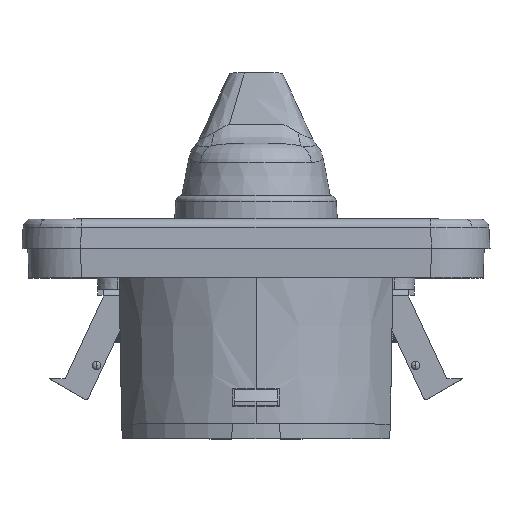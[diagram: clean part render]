
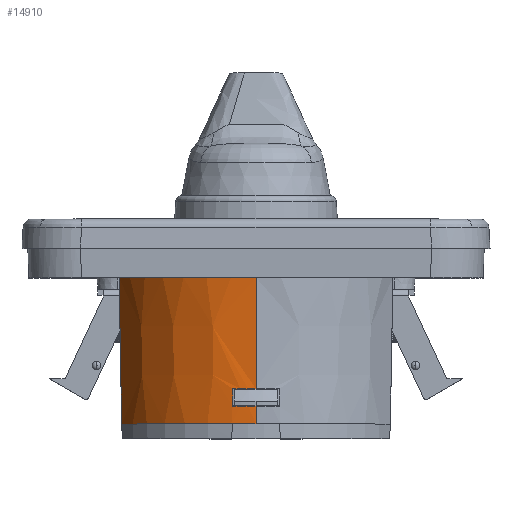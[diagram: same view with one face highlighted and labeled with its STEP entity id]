
A CAD part, top view. The second image highlights one B-rep face of the part: STEP entity #14910.
In plain terms, the highlighted conical face has half-angle 1 degrees and reference radius 25 mm.
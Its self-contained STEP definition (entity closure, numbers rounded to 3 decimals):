
#224 = CARTESIAN_POINT ( 'NONE',  ( 0., 0., 0. ) ) ;
#393 = CARTESIAN_POINT ( 'NONE',  ( -4., -21.508, 24.298 ) ) ;
#461 = VERTEX_POINT ( 'NONE', #29344 ) ;
#1006 = VERTEX_POINT ( 'NONE', #10917 ) ;
#1124 = DIRECTION ( 'NONE',  ( 0., 1., 0.017 ) ) ;
#1161 = DIRECTION ( 'NONE',  ( 0., -1., 0. ) ) ;
#1917 = CARTESIAN_POINT ( 'NONE',  ( -22.964, -25., 8.72 ) ) ;
#2154 = EDGE_LOOP ( 'NONE', ( #13075, #12576, #25080, #28340, #25958, #19184, #9758, #17780 ) ) ;
#2464 = CONICAL_SURFACE ( 'NONE', #8835, 25., 0.017 ) ;
#2646 = CARTESIAN_POINT ( 'NONE',  ( 0., 0., 25. ) ) ;
#2876 = VERTEX_POINT ( 'NONE', #3796 ) ;
#3690 = CARTESIAN_POINT ( 'NONE',  ( 0., 0., 25. ) ) ;
#3796 = CARTESIAN_POINT ( 'NONE',  ( 0., -25., 24.564 ) ) ;
#4381 = FACE_OUTER_BOUND ( 'NONE', #2154, .T. ) ;
#4857 = CARTESIAN_POINT ( 'NONE',  ( -4., -20.016, 24.324 ) ) ;
#6053 = DIRECTION ( 'NONE',  ( 0., 0., -1. ) ) ;
#6166 = DIRECTION ( 'NONE',  ( 0., 1., 0. ) ) ;
#6583 = AXIS2_PLACEMENT_3D ( 'NONE', #8456, #6166, #22383 ) ;
#6996 = EDGE_CURVE ( 'NONE', #26652, #10055, #22376, .T. ) ;
#6997 = CARTESIAN_POINT ( 'NONE',  ( -4., -19.508, 24.333 ) ) ;
#8047 = VERTEX_POINT ( 'NONE', #24239 ) ;
#8456 = CARTESIAN_POINT ( 'NONE',  ( 0., -19., 0. ) ) ;
#8835 = AXIS2_PLACEMENT_3D ( 'NONE', #224, #16107, #9606 ) ;
#9519 = CARTESIAN_POINT ( 'NONE',  ( -23.4, 0., 8.8 ) ) ;
#9606 = DIRECTION ( 'NONE',  ( 0., 0., 1. ) ) ;
#9758 = ORIENTED_EDGE ( 'NONE', *, *, #30253, .T. ) ;
#10017 = CIRCLE ( 'NONE', #25338, 24.564 ) ;
#10055 = VERTEX_POINT ( 'NONE', #2646 ) ;
#10716 = CARTESIAN_POINT ( 'NONE',  ( 0., 0., 0. ) ) ;
#10917 = CARTESIAN_POINT ( 'NONE',  ( -4., -22., 24.289 ) ) ;
#11203 = CIRCLE ( 'NONE', #14660, 24.616 ) ;
#12009 = CIRCLE ( 'NONE', #6583, 24.668 ) ;
#12576 = ORIENTED_EDGE ( 'NONE', *, *, #13063, .T. ) ;
#12825 = DIRECTION ( 'NONE',  ( 0., -1., 0. ) ) ;
#12835 = CARTESIAN_POINT ( 'NONE',  ( 0., 0., 25. ) ) ;
#13063 = EDGE_CURVE ( 'NONE', #2876, #8047, #24898, .T. ) ;
#13075 = ORIENTED_EDGE ( 'NONE', *, *, #24040, .F. ) ;
#13094 = VECTOR ( 'NONE', #1124, 1000. ) ;
#13413 = EDGE_CURVE ( 'NONE', #29924, #26652, #12009, .T. ) ;
#13727 = VERTEX_POINT ( 'NONE', #9519 ) ;
#14447 = CIRCLE ( 'NONE', #26279, 25. ) ;
#14660 = AXIS2_PLACEMENT_3D ( 'NONE', #24732, #12825, #19948 ) ;
#14910 = ADVANCED_FACE ( 'NONE', ( #4381 ), #2464, .T. ) ;
#16107 = DIRECTION ( 'NONE',  ( 0., 1., 0. ) ) ;
#16120 = CARTESIAN_POINT ( 'NONE',  ( -23.109, -16.667, 8.747 ) ) ;
#17145 = CARTESIAN_POINT ( 'NONE',  ( 0., -19., 24.668 ) ) ;
#17346 = DIRECTION ( 'NONE',  ( 0., 0., 1. ) ) ;
#17780 = ORIENTED_EDGE ( 'NONE', *, *, #25349, .T. ) ;
#18123 = EDGE_CURVE ( 'NONE', #1006, #29924, #29222, .T. ) ;
#19184 = ORIENTED_EDGE ( 'NONE', *, *, #6996, .T. ) ;
#19653 = DIRECTION ( 'NONE',  ( 0., -1., 0. ) ) ;
#19948 = DIRECTION ( 'NONE',  ( 0., 0., -1. ) ) ;
#21521 = CARTESIAN_POINT ( 'NONE',  ( -4., -22., 24.289 ) ) ;
#21782 = CARTESIAN_POINT ( 'NONE',  ( -23.255, -8.333, 8.774 ) ) ;
#22376 = LINE ( 'NONE', #3690, #25885 ) ;
#22383 = DIRECTION ( 'NONE',  ( 0., 0., 1. ) ) ;
#22644 = CARTESIAN_POINT ( 'NONE',  ( -4., -19., 24.342 ) ) ;
#23016 = B_SPLINE_CURVE_WITH_KNOTS ( 'NONE', 3,
 ( #25840, #21782, #16120, #1917 ),
 .UNSPECIFIED., .F., .F.,
 ( 4, 4 ),
 ( 0., 0.025 ),
 .UNSPECIFIED. ) ;
#24000 = CARTESIAN_POINT ( 'NONE',  ( -4., -21.016, 24.306 ) ) ;
#24040 = EDGE_CURVE ( 'NONE', #2876, #461, #10017, .T. ) ;
#24239 = CARTESIAN_POINT ( 'NONE',  ( 0., -22., 24.616 ) ) ;
#24452 = CARTESIAN_POINT ( 'NONE',  ( 0., -25., 0. ) ) ;
#24732 = CARTESIAN_POINT ( 'NONE',  ( 0., -22., 0. ) ) ;
#24898 = LINE ( 'NONE', #12835, #13094 ) ;
#25080 = ORIENTED_EDGE ( 'NONE', *, *, #29017, .T. ) ;
#25338 = AXIS2_PLACEMENT_3D ( 'NONE', #24452, #19653, #6053 ) ;
#25349 = EDGE_CURVE ( 'NONE', #13727, #461, #23016, .T. ) ;
#25703 = DIRECTION ( 'NONE',  ( 0., 1., 0.017 ) ) ;
#25840 = CARTESIAN_POINT ( 'NONE',  ( -23.4, 0., 8.8 ) ) ;
#25885 = VECTOR ( 'NONE', #25703, 1000. ) ;
#25958 = ORIENTED_EDGE ( 'NONE', *, *, #13413, .T. ) ;
#26279 = AXIS2_PLACEMENT_3D ( 'NONE', #10716, #1161, #17346 ) ;
#26284 = CARTESIAN_POINT ( 'NONE',  ( -4., -19., 24.342 ) ) ;
#26652 = VERTEX_POINT ( 'NONE', #17145 ) ;
#28340 = ORIENTED_EDGE ( 'NONE', *, *, #18123, .T. ) ;
#28605 = CARTESIAN_POINT ( 'NONE',  ( -4., -20.524, 24.315 ) ) ;
#29017 = EDGE_CURVE ( 'NONE', #8047, #1006, #11203, .T. ) ;
#29222 = B_SPLINE_CURVE_WITH_KNOTS ( 'NONE', 3,
 ( #21521, #393, #24000, #28605, #4857, #6997, #26284 ),
 .UNSPECIFIED., .F., .F.,
 ( 4, 3, 4 ),
 ( 0.029, 0.031, 0.032 ),
 .UNSPECIFIED. ) ;
#29344 = CARTESIAN_POINT ( 'NONE',  ( -22.964, -25., 8.72 ) ) ;
#29924 = VERTEX_POINT ( 'NONE', #22644 ) ;
#30253 = EDGE_CURVE ( 'NONE', #10055, #13727, #14447, .T. ) ;
